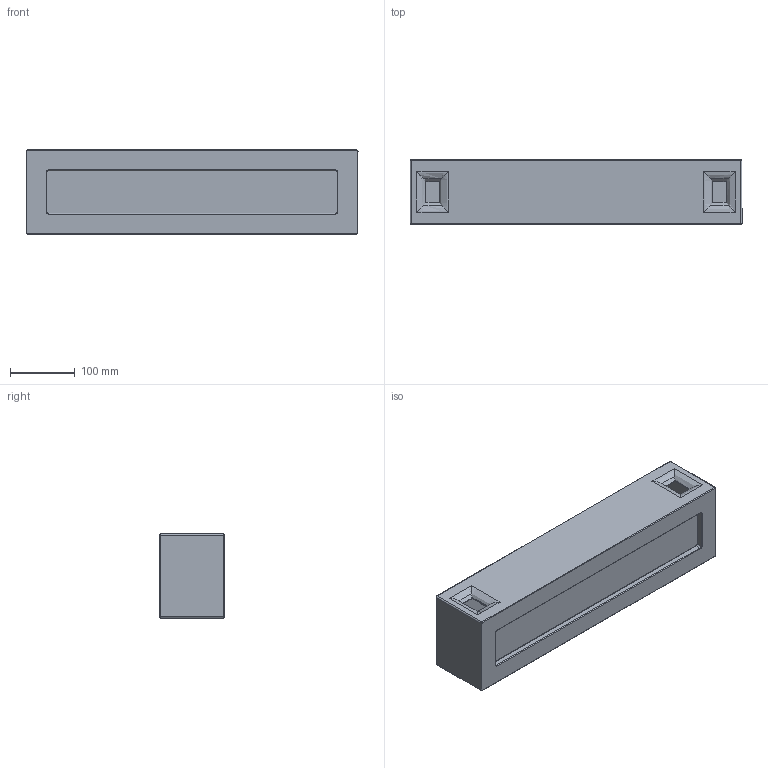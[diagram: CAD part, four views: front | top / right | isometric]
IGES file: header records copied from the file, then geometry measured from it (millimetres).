
Start section: SolidWorks IGES file using analytic representation for surfaces
Global section: file name: E:\3D lampy\Solid\Solid_9721.IGS; native system: SolidWorks 2016; preprocessor: SolidWorks 2016; author: Asia; date: 170810.095733; units: millimetre
Bounding box: 513 x 100 x 130 mm (x, y, z)
Surface area: 585041.7 mm2 (no closed solid volume)
Topology: 0 solids, 0 shells, 646 faces, 5752 edges, 5732 vertices
Faces by surface type: bspline 368, revolution 278
